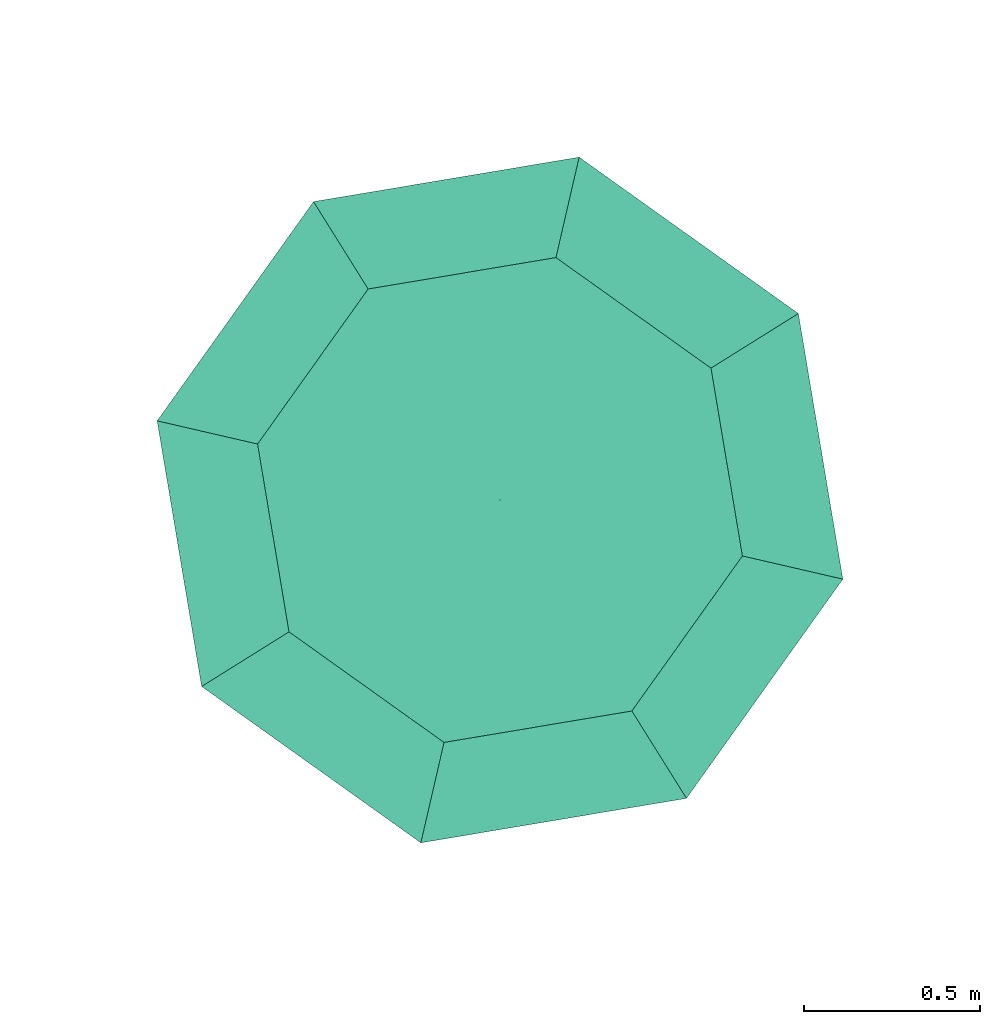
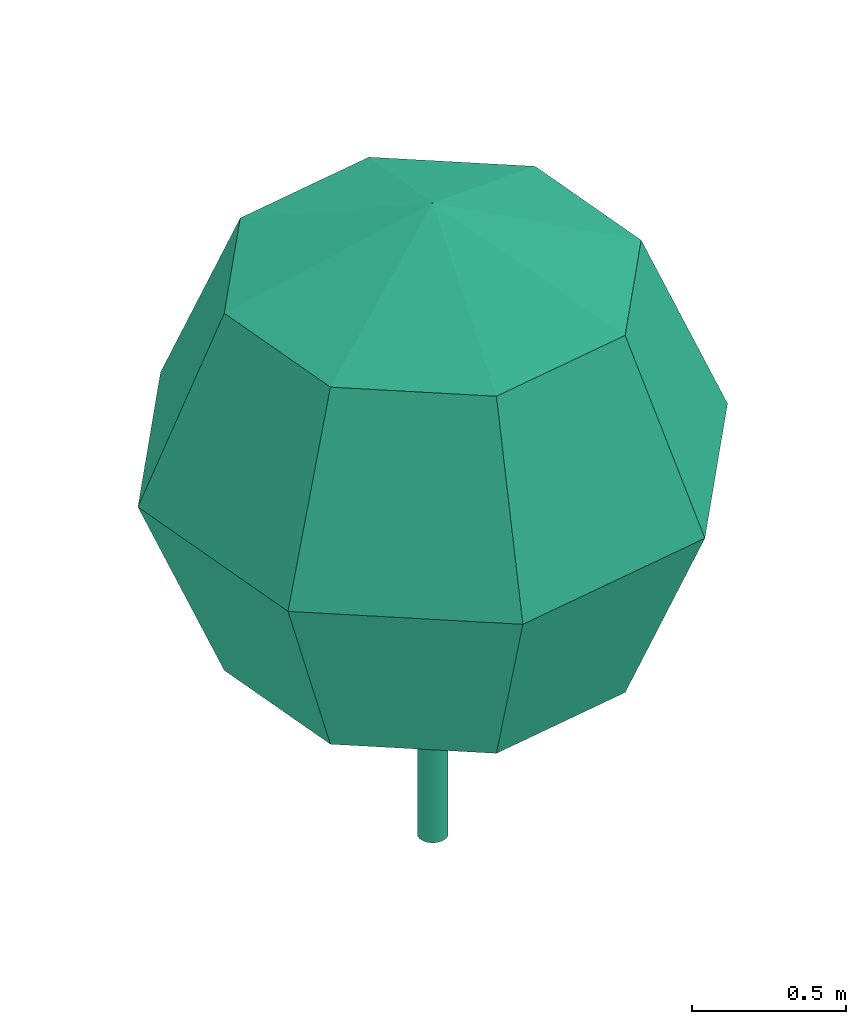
# One storey, part 79 of 119: 1 flow terminal.
"""IFC2X3 building model written with IfcOpenShell, lengths in metres."""

from ifc_helpers import new_model, entity, si_unit, converted_unit, derived_unit, money_unit, direction, frame, origin_with_axes, place, context, subcontext, project, spatial, faceted_brep, source, transform, mapped, type_object, element, save


model = new_model("IFC2X3")

# Units and contexts
model_context = context("Model", 3, precision=1e-05, world=origin_with_axes(), true_north=direction((0.0, 1.0)))
body_context = subcontext(model_context, "Body", "Model", "MODEL_VIEW")
ifc_project = project(units=[si_unit("LENGTHUNIT", "METRE"), si_unit("AREAUNIT", "SQUARE_METRE"), si_unit("VOLUMEUNIT", "CUBIC_METRE"), converted_unit("PLANEANGLEUNIT", "DEGREE", entity("IfcPlaneAngleMeasure", 0.0174532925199), si_unit("PLANEANGLEUNIT", "RADIAN"), dimensions=[0, 0, 0, 0, 0, 0, 0]), si_unit("SOLIDANGLEUNIT", "STERADIAN"), money_unit("EUR"), converted_unit("TIMEUNIT", "Year", entity("IfcTimeMeasure", 31556926.0), si_unit("TIMEUNIT", "SECOND"), dimensions=[0, 0, 1, 0, 0, 0, 0]), si_unit("MASSUNIT", "GRAM", prefix="KILO"), si_unit("THERMODYNAMICTEMPERATUREUNIT", "DEGREE_CELSIUS"), si_unit("LUMINOUSINTENSITYUNIT", "LUMEN"), si_unit("ENERGYUNIT", "JOULE", prefix="MEGA"), derived_unit("THERMALCONDUCTANCEUNIT", [(si_unit("POWERUNIT", "WATT"), 1), (si_unit("LENGTHUNIT", "METRE"), -1), (si_unit("THERMODYNAMICTEMPERATUREUNIT", "KELVIN"), -1)]), derived_unit("SPECIFICHEATCAPACITYUNIT", [(si_unit("ENERGYUNIT", "JOULE"), 1), (si_unit("MASSUNIT", "GRAM", prefix="KILO"), -1), (si_unit("THERMODYNAMICTEMPERATUREUNIT", "KELVIN"), -1)]), derived_unit("MASSDENSITYUNIT", [(si_unit("MASSUNIT", "GRAM", prefix="KILO"), 1), (si_unit("VOLUMEUNIT", "CUBIC_METRE"), -1)])], contexts=[model_context])

# Site, building, storey
site_placement = place(None, origin_with_axes())
site = spatial("IfcSite", under=ifc_project, at=site_placement, Name="Site", CompositionType="ELEMENT")
building_placement = place(site_placement, origin_with_axes())
building = spatial("IfcBuilding", under=site, at=building_placement, Name="Bâtiment", CompositionType="ELEMENT")
storey_placement = place(building_placement, origin_with_axes())
storey = spatial("IfcBuildingStorey", under=building, at=storey_placement, Name="Rez-de-chaussée", CompositionType="ELEMENT", Elevation=0.0)

# Flow terminal
air_terminal_type = type_object("IfcAirTerminalType", Name="Modèle arbre conceptuel 23", PredefinedType="NOTDEFINED")
shared_shape = source(origin_with_axes(), body_context, "Body", "Brep", [
    faceted_brep([(-0.0492403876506, -0.00868240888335, 0.0), (-0.05, 0.0, 0.0), (-0.0492403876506, 0.00868240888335, 0.0), (-0.0469846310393, 0.0171010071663, 0.0), (-0.0433012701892, 0.025, 0.0), (-0.0383022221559, 0.0321393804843, 0.0), (-0.0321393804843, 0.0383022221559, 0.0), (-0.025, 0.0433012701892, 0.0), (-0.0171010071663, 0.0469846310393, 0.0), (-0.00868240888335, 0.0492403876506, 0.0), (0.0, 0.05, 0.0), (0.00868240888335, 0.0492403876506, 0.0), (0.0171010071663, 0.0469846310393, 0.0), (0.025, 0.0433012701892, 0.0), (0.0321393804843, 0.0383022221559, 0.0), (0.0383022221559, 0.0321393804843, 0.0), (0.0433012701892, 0.025, 0.0), (0.0469846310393, 0.0171010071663, 0.0), (0.0492403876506, 0.00868240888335, 0.0), (0.05, 0.0, 0.0), (0.0492403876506, -0.00868240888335, 0.0), (0.0469846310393, -0.0171010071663, 0.0), (0.0433012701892, -0.025, 0.0), (0.0383022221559, -0.0321393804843, 0.0), (0.0321393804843, -0.0383022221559, 0.0), (0.025, -0.0433012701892, 0.0), (0.0171010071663, -0.0469846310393, 0.0), (0.00868240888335, -0.0492403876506, 0.0), (0.0, -0.05, 0.0), (-0.00868240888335, -0.0492403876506, 0.0), (-0.0171010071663, -0.0469846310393, 0.0), (-0.025, -0.0433012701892, 0.0), (-0.0321393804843, -0.0383022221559, 0.0), (-0.0383022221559, -0.0321393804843, 0.0), (-0.0433012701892, -0.025, 0.0), (-0.0469846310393, -0.0171010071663, 0.0), (-0.0492403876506, -0.00868240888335, 0.5), (-0.05, 0.0, 0.5), (-0.0492403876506, 0.00868240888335, 0.5), (-0.0469846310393, 0.0171010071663, 0.5), (-0.0433012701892, 0.025, 0.5), (-0.0383022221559, 0.0321393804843, 0.5), (-0.0321393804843, 0.0383022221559, 0.5), (-0.025, 0.0433012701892, 0.5), (-0.0171010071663, 0.0469846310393, 0.5), (-0.00868240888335, 0.0492403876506, 0.5), (0.0, 0.05, 0.5), (0.00868240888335, 0.0492403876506, 0.5), (0.0171010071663, 0.0469846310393, 0.5), (0.025, 0.0433012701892, 0.5), (0.0321393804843, 0.0383022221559, 0.5), (0.0383022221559, 0.0321393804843, 0.5), (0.0433012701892, 0.025, 0.5), (0.0469846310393, 0.0171010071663, 0.5), (0.0492403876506, 0.00868240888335, 0.5), (0.05, 0.0, 0.5), (0.0492403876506, -0.00868240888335, 0.5), (0.0469846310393, -0.0171010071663, 0.5), (0.0433012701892, -0.025, 0.5), (0.0383022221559, -0.0321393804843, 0.5), (0.0321393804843, -0.0383022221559, 0.5), (0.025, -0.0433012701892, 0.5), (0.0171010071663, -0.0469846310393, 0.5), (0.00868240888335, -0.0492403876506, 0.5), (0.0, -0.05, 0.5), (-0.00868240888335, -0.0492403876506, 0.5), (-0.0171010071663, -0.0469846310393, 0.5), (-0.025, -0.0433012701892, 0.5), (-0.0321393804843, -0.0383022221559, 0.5), (-0.0383022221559, -0.0321393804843, 0.5), (-0.0433012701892, -0.025, 0.5), (-0.0469846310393, -0.0171010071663, 0.5)], [[[0, 1, 2, 3, 4, 5, 6, 7, 8, 9, 10, 11, 12, 13, 14, 15, 16, 17, 18, 19, 20, 21, 22, 23, 24, 25, 26, 27, 28, 29, 30, 31, 32, 33, 34, 35]], [[0, 36, 37, 1]], [[1, 37, 38, 2]], [[2, 38, 39, 3]], [[3, 39, 40, 4]], [[4, 40, 41, 5]], [[5, 41, 42, 6]], [[6, 42, 43, 7]], [[7, 43, 44, 8]], [[8, 44, 45, 9]], [[9, 45, 46, 10]], [[10, 46, 47, 11]], [[11, 47, 48, 12]], [[12, 48, 49, 13]], [[13, 49, 50, 14]], [[14, 50, 51, 15]], [[15, 51, 52, 16]], [[16, 52, 53, 17]], [[17, 53, 54, 18]], [[18, 54, 55, 19]], [[19, 55, 56, 20]], [[20, 56, 57, 21]], [[21, 57, 58, 22]], [[22, 58, 59, 23]], [[23, 59, 60, 24]], [[24, 60, 61, 25]], [[25, 61, 62, 26]], [[26, 62, 63, 27]], [[27, 63, 64, 28]], [[28, 64, 65, 29]], [[29, 65, 66, 30]], [[30, 66, 67, 31]], [[31, 67, 68, 32]], [[32, 68, 69, 33]], [[33, 69, 70, 34]], [[34, 70, 71, 35]], [[35, 71, 36, 0]], [[36, 71, 70, 69, 68, 67, 66, 65, 64, 63, 62, 61, 60, 59, 58, 57, 56, 55, 54, 53, 52, 51, 50, 49, 48, 47, 46, 45, 44, 43, 42, 41, 40, 39, 38, 37]]]),
    faceted_brep([(-0.0492403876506, -0.00868240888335, 0.5), (-0.05, 0.0, 0.5), (-0.0492403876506, 0.00868240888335, 0.5), (-0.0469846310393, 0.0171010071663, 0.5), (-0.0433012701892, 0.025, 0.5), (-0.0383022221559, 0.0321393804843, 0.5), (-0.0321393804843, 0.0383022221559, 0.5), (-0.025, 0.0433012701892, 0.5), (-0.0171010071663, 0.0469846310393, 0.5), (-0.00868240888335, 0.0492403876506, 0.5), (0.0, 0.05, 0.5), (0.00868240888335, 0.0492403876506, 0.5), (0.0171010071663, 0.0469846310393, 0.5), (0.025, 0.0433012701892, 0.5), (0.0321393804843, 0.0383022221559, 0.5), (0.0383022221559, 0.0321393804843, 0.5), (0.0433012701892, 0.025, 0.5), (0.0469846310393, 0.0171010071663, 0.5), (0.0492403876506, 0.00868240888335, 0.5), (0.05, 0.0, 0.5), (0.0492403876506, -0.00868240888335, 0.5), (0.0469846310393, -0.0171010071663, 0.5), (0.0433012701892, -0.025, 0.5), (0.0383022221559, -0.0321393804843, 0.5), (0.0321393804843, -0.0383022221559, 0.5), (0.025, -0.0433012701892, 0.5), (0.0171010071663, -0.0469846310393, 0.5), (0.00868240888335, -0.0492403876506, 0.5), (0.0, -0.05, 0.5), (-0.00868240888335, -0.0492403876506, 0.5), (-0.0171010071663, -0.0469846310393, 0.5), (-0.025, -0.0433012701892, 0.5), (-0.0321393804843, -0.0383022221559, 0.5), (-0.0383022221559, -0.0321393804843, 0.5), (-0.0433012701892, -0.025, 0.5), (-0.0469846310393, -0.0171010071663, 0.5), (0.0, 0.0, 1.5)], [[[0, 1, 2, 3, 4, 5, 6, 7, 8, 9, 10, 11, 12, 13, 14, 15, 16, 17, 18, 19, 20, 21, 22, 23, 24, 25, 26, 27, 28, 29, 30, 31, 32, 33, 34, 35]], [[0, 36, 1]], [[1, 36, 2]], [[2, 36, 3]], [[3, 36, 4]], [[4, 36, 5]], [[5, 36, 6]], [[6, 36, 7]], [[7, 36, 8]], [[8, 36, 9]], [[9, 36, 10]], [[10, 36, 11]], [[11, 36, 12]], [[12, 36, 13]], [[13, 36, 14]], [[14, 36, 15]], [[15, 36, 16]], [[16, 36, 17]], [[17, 36, 18]], [[18, 36, 19]], [[19, 36, 20]], [[20, 36, 21]], [[21, 36, 22]], [[22, 36, 23]], [[23, 36, 24]], [[24, 36, 25]], [[25, 36, 26]], [[26, 36, 27]], [[27, 36, 28]], [[28, 36, 29]], [[29, 36, 30]], [[30, 36, 31]], [[31, 36, 32]], [[32, 36, 33]], [[33, 36, 34]], [[34, 36, 35]], [[35, 36, 0]]]),
    faceted_brep([(-0.707106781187, 0.0, 2.20710678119), (-0.5, -0.5, 2.20710678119), (0.0, 0.0, 2.5), (-1.0, 0.0, 1.5), (-0.707106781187, -0.707106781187, 1.5), (0.0, -0.707106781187, 2.20710678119), (-0.5, 0.5, 2.20710678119), (-0.707106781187, 0.0, 0.792893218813), (-0.5, -0.5, 0.792893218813), (0.0, -1.0, 1.5), (-0.707106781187, 0.707106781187, 1.5), (0.5, -0.5, 2.20710678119), (0.0, 0.707106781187, 2.20710678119), (0.0, 0.0, 0.5), (0.0, -0.707106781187, 0.792893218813), (-0.5, 0.5, 0.792893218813), (0.707106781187, -0.707106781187, 1.5), (0.0, 1.0, 1.5), (0.707106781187, 0.0, 2.20710678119), (0.5, 0.5, 2.20710678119), (0.5, -0.5, 0.792893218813), (0.0, 0.707106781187, 0.792893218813), (1.0, 0.0, 1.5), (0.707106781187, 0.707106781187, 1.5), (0.707106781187, 0.0, 0.792893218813), (0.5, 0.5, 0.792893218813)], [[[0, 1, 2]], [[3, 4, 1, 0]], [[1, 5, 2]], [[6, 0, 2]], [[7, 8, 4, 3]], [[4, 9, 5, 1]], [[10, 3, 0, 6]], [[5, 11, 2]], [[12, 6, 2]], [[13, 8, 7]], [[8, 14, 9, 4]], [[15, 7, 3, 10]], [[9, 16, 11, 5]], [[17, 10, 6, 12]], [[11, 18, 2]], [[19, 12, 2]], [[13, 14, 8]], [[13, 7, 15]], [[14, 20, 16, 9]], [[21, 15, 10, 17]], [[16, 22, 18, 11]], [[23, 17, 12, 19]], [[18, 19, 2]], [[13, 20, 14]], [[13, 15, 21]], [[20, 24, 22, 16]], [[25, 21, 17, 23]], [[22, 23, 19, 18]], [[13, 24, 20]], [[13, 21, 25]], [[24, 25, 23, 22]], [[13, 25, 24]]]),
])
flow_terminal_placement = place(storey_placement, frame((-16.553486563, -38.388469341, -1.76214766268), z_axis=(0.0, 0.0, 1.0), x_axis=(-0.224876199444, -0.974387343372, 0.0)))
element("IfcFlowTerminal", 1, at=flow_terminal_placement, inside=storey, type_object=air_terminal_type, ObjectType="AIR TERMINAL", context=body_context, shape_type="MappedRepresentation", body=[
    mapped(shared_shape, transform((0.0, 0.0, 0.0))),
])

save(model, "model.ifc")
